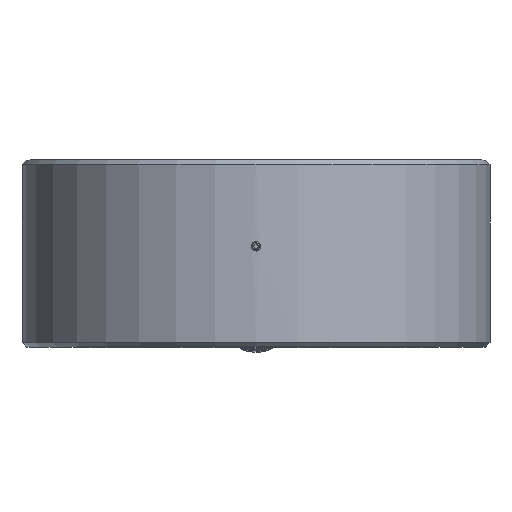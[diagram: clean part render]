
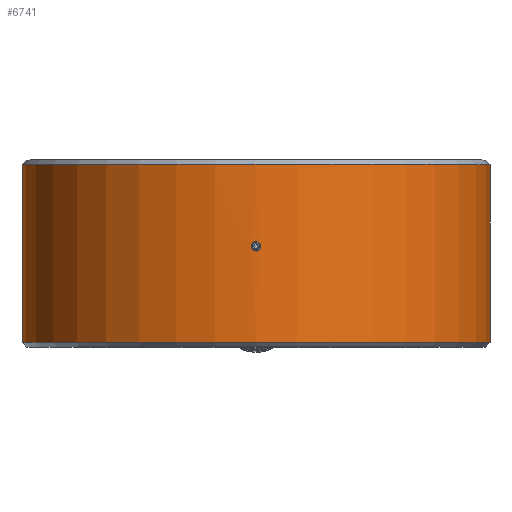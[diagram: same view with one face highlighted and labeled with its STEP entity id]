
A CAD part, top view. The second image highlights one B-rep face of the part: STEP entity #6741.
In plain terms, the highlighted cylindrical face has radius 50 mm (diameter 100 mm), a partial arc.
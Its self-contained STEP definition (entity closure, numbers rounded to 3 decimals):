
#17 = VERTEX_POINT ( 'NONE', #8837 ) ;
#960 = VERTEX_POINT ( 'NONE', #27957 ) ;
#1135 = DIRECTION ( 'NONE',  ( -1., 0., 0. ) ) ;
#2423 = CARTESIAN_POINT ( 'NONE',  ( 50., 1., 0. ) ) ;
#3430 = CARTESIAN_POINT ( 'NONE',  ( 0.625, 22.318, 49.996 ) ) ;
#3443 = AXIS2_PLACEMENT_3D ( 'NONE', #29367, #27202, #1135 ) ;
#3675 = CARTESIAN_POINT ( 'NONE',  ( -1.015, 21.233, 49.99 ) ) ;
#4048 = CYLINDRICAL_SURFACE ( 'NONE', #3443, 50. ) ;
#4120 = CARTESIAN_POINT ( 'NONE',  ( -0.513, 20.605, 49.998 ) ) ;
#4663 = CARTESIAN_POINT ( 'NONE',  ( -50., 39., 0. ) ) ;
#5398 = CARTESIAN_POINT ( 'NONE',  ( 50., 0., 0. ) ) ;
#5410 = CARTESIAN_POINT ( 'NONE',  ( 50., 39., 0. ) ) ;
#5898 = CARTESIAN_POINT ( 'NONE',  ( -0.134, 22.525, 50. ) ) ;
#5923 = ORIENTED_EDGE ( 'NONE', *, *, #18692, .T. ) ;
#6093 = VECTOR ( 'NONE', #24223, 1000. ) ;
#6545 = ORIENTED_EDGE ( 'NONE', *, *, #15518, .T. ) ;
#6741 = ADVANCED_FACE ( 'NONE', ( #15310, #22437 ), #4048, .T. ) ;
#6979 = ORIENTED_EDGE ( 'NONE', *, *, #22775, .T. ) ;
#7241 = VERTEX_POINT ( 'NONE', #2423 ) ;
#7779 = LINE ( 'NONE', #10396, #26270 ) ;
#8041 = CARTESIAN_POINT ( 'NONE',  ( 0.514, 22.394, 49.998 ) ) ;
#8268 = B_SPLINE_CURVE_WITH_KNOTS ( 'NONE', 3,
 ( #29893, #15381, #10744, #8574, #8284, #22503, #29587, #25402, #15836, #17853, #25253, #4120, #20635, #11046, #3675, #29438 ),
 .UNSPECIFIED., .F., .F.,
 ( 4, 2, 2, 2, 2, 2, 2, 4 ),
 ( 0.006, 0.006, 0.006, 0.007, 0.007, 0.008, 0.008, 0.009 ),
 .UNSPECIFIED. ) ;
#8284 = CARTESIAN_POINT ( 'NONE',  ( 0.814, 20.873, 49.993 ) ) ;
#8574 = CARTESIAN_POINT ( 'NONE',  ( 0.888, 20.987, 49.992 ) ) ;
#8837 = CARTESIAN_POINT ( 'NONE',  ( -50., 1., 0. ) ) ;
#9221 = CARTESIAN_POINT ( 'NONE',  ( 0., 39., 0. ) ) ;
#10338 = AXIS2_PLACEMENT_3D ( 'NONE', #29779, #25288, #27605 ) ;
#10354 = CARTESIAN_POINT ( 'NONE',  ( 0.813, 22.127, 49.993 ) ) ;
#10396 = CARTESIAN_POINT ( 'NONE',  ( -50., 0., 0. ) ) ;
#10507 = CARTESIAN_POINT ( 'NONE',  ( -0.888, 22.014, 49.992 ) ) ;
#10744 = CARTESIAN_POINT ( 'NONE',  ( 0.988, 21.233, 49.99 ) ) ;
#11046 = CARTESIAN_POINT ( 'NONE',  ( -0.907, 20.967, 49.992 ) ) ;
#12823 = CARTESIAN_POINT ( 'NONE',  ( 0.133, 22.525, 50. ) ) ;
#13121 = EDGE_CURVE ( 'NONE', #22677, #27552, #19223, .T. ) ;
#13283 = CARTESIAN_POINT ( 'NONE',  ( 1.015, 21.5, 49.99 ) ) ;
#15310 = FACE_OUTER_BOUND ( 'NONE', #16504, .T. ) ;
#15381 = CARTESIAN_POINT ( 'NONE',  ( 1.015, 21.367, 49.99 ) ) ;
#15518 = EDGE_CURVE ( 'NONE', #16542, #960, #20598, .T. ) ;
#15602 = CARTESIAN_POINT ( 'NONE',  ( -1.015, 21.5, 49.99 ) ) ;
#15836 = CARTESIAN_POINT ( 'NONE',  ( 0.132, 20.475, 50. ) ) ;
#16061 = CARTESIAN_POINT ( 'NONE',  ( -1.015, 21.5, 49.99 ) ) ;
#16504 = EDGE_LOOP ( 'NONE', ( #24111, #29519, #24448, #6979 ) ) ;
#16542 = VERTEX_POINT ( 'NONE', #16061 ) ;
#17853 = CARTESIAN_POINT ( 'NONE',  ( -0.133, 20.475, 50. ) ) ;
#17921 = CARTESIAN_POINT ( 'NONE',  ( 0.989, 21.767, 49.99 ) ) ;
#18338 = DIRECTION ( 'NONE',  ( 0., -1., 0. ) ) ;
#18692 = EDGE_CURVE ( 'NONE', #960, #16542, #8268, .T. ) ;
#19223 = CIRCLE ( 'NONE', #24643, 50. ) ;
#19745 = EDGE_CURVE ( 'NONE', #22677, #7241, #29156, .T. ) ;
#19940 = CARTESIAN_POINT ( 'NONE',  ( 0.888, 22.014, 49.992 ) ) ;
#20598 = B_SPLINE_CURVE_WITH_KNOTS ( 'NONE', 3,
 ( #15602, #22117, #24884, #10507, #26876, #22421, #27033, #29651, #5898, #12823, #26727, #8041, #3430, #10354, #19940, #17921, #29350, #13283 ),
 .UNSPECIFIED., .F., .F.,
 ( 4, 2, 2, 2, 2, 2, 2, 2, 4 ),
 ( 0.002, 0.003, 0.003, 0.004, 0.004, 0.004, 0.005, 0.005, 0.006 ),
 .UNSPECIFIED. ) ;
#20635 = CARTESIAN_POINT ( 'NONE',  ( -0.625, 20.682, 49.996 ) ) ;
#20665 = DIRECTION ( 'NONE',  ( -1., 0., 0. ) ) ;
#22117 = CARTESIAN_POINT ( 'NONE',  ( -1.015, 21.634, 49.99 ) ) ;
#22421 = CARTESIAN_POINT ( 'NONE',  ( -0.626, 22.317, 49.996 ) ) ;
#22437 = FACE_BOUND ( 'NONE', #30250, .T. ) ;
#22503 = CARTESIAN_POINT ( 'NONE',  ( 0.624, 20.681, 49.996 ) ) ;
#22677 = VERTEX_POINT ( 'NONE', #5410 ) ;
#22775 = EDGE_CURVE ( 'NONE', #17, #7241, #23671, .T. ) ;
#23671 = CIRCLE ( 'NONE', #10338, 50. ) ;
#23944 = EDGE_CURVE ( 'NONE', #27552, #17, #7779, .T. ) ;
#24111 = ORIENTED_EDGE ( 'NONE', *, *, #19745, .F. ) ;
#24153 = DIRECTION ( 'NONE',  ( 0., -1., 0. ) ) ;
#24223 = DIRECTION ( 'NONE',  ( 0., -1., 0. ) ) ;
#24448 = ORIENTED_EDGE ( 'NONE', *, *, #23944, .T. ) ;
#24643 = AXIS2_PLACEMENT_3D ( 'NONE', #9221, #18338, #20665 ) ;
#24884 = CARTESIAN_POINT ( 'NONE',  ( -0.988, 21.767, 49.99 ) ) ;
#25253 = CARTESIAN_POINT ( 'NONE',  ( -0.268, 20.502, 49.999 ) ) ;
#25288 = DIRECTION ( 'NONE',  ( 0., 1., 0. ) ) ;
#25402 = CARTESIAN_POINT ( 'NONE',  ( 0.266, 20.502, 49.999 ) ) ;
#26270 = VECTOR ( 'NONE', #24153, 1000. ) ;
#26727 = CARTESIAN_POINT ( 'NONE',  ( 0.266, 22.499, 49.999 ) ) ;
#26876 = CARTESIAN_POINT ( 'NONE',  ( -0.813, 22.128, 49.993 ) ) ;
#27033 = CARTESIAN_POINT ( 'NONE',  ( -0.513, 22.394, 49.998 ) ) ;
#27202 = DIRECTION ( 'NONE',  ( 0., -1., 0. ) ) ;
#27552 = VERTEX_POINT ( 'NONE', #4663 ) ;
#27605 = DIRECTION ( 'NONE',  ( 1., 0., 0. ) ) ;
#27957 = CARTESIAN_POINT ( 'NONE',  ( 1.015, 21.5, 49.99 ) ) ;
#29156 = LINE ( 'NONE', #5398, #6093 ) ;
#29350 = CARTESIAN_POINT ( 'NONE',  ( 1.015, 21.633, 49.99 ) ) ;
#29367 = CARTESIAN_POINT ( 'NONE',  ( 0., 0., 0. ) ) ;
#29438 = CARTESIAN_POINT ( 'NONE',  ( -1.015, 21.5, 49.99 ) ) ;
#29519 = ORIENTED_EDGE ( 'NONE', *, *, #13121, .T. ) ;
#29587 = CARTESIAN_POINT ( 'NONE',  ( 0.512, 20.605, 49.998 ) ) ;
#29651 = CARTESIAN_POINT ( 'NONE',  ( -0.268, 22.498, 49.999 ) ) ;
#29779 = CARTESIAN_POINT ( 'NONE',  ( 0., 1., 0. ) ) ;
#29893 = CARTESIAN_POINT ( 'NONE',  ( 1.015, 21.5, 49.99 ) ) ;
#30250 = EDGE_LOOP ( 'NONE', ( #5923, #6545 ) ) ;
